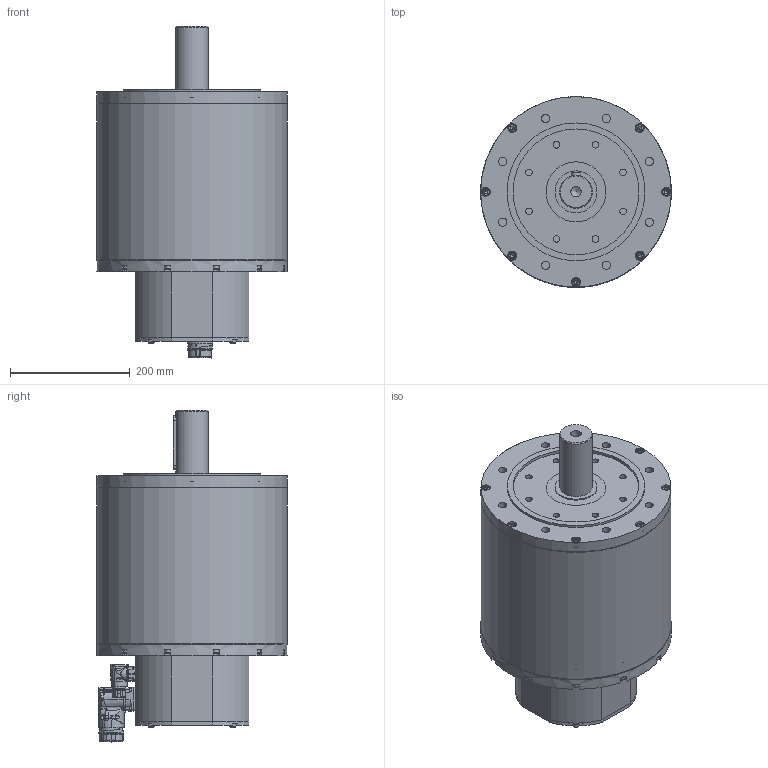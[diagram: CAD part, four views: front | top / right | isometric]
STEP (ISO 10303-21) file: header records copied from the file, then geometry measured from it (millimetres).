
FILE_DESCRIPTION(/* description */ (''),/* implementation_level */ '2;1');
FILE_NAME(/* name */ 'C:\Users\Public\Documents\Autodesk\Inventor LT 2014\Workspace\Motori Sito WEB\TG_8\STEP_DSM5_8x\DSM5_82_x199.stp',/* time_stamp */ '2021-03-31T14:34:01+02:00',/* author */ ('marcor'),/* organization */ (''),/* preprocessor_version */ 'ST-DEVELOPER v15.2',/* originating_system */ 'Autodesk Inventor LT ',/* authorisation */ '');
FILE_SCHEMA (('AUTOMOTIVE_DESIGN { 1 0 10303 214 3 1 1 }'));
Products named in the file (1): DSM5_82_x199
Bounding box: 318 x 318 x 554 mm (x, y, z)
Volume: 27767228 mm3; surface area: 1106719.7 mm2
Topology: 29 solids, 36 shells, 1971 faces, 5129 edges, 3360 vertices
Faces by surface type: plane 878, cylinder 417, cone 415, bspline 137, torus 107, sphere 17
Full cylindrical faces by diameter (mm): 1.2 x12, 2 x2, 2.224 x4, 2.5 x4, 2.88 x4, 3.26 x4, 3.6 x5, 4 x5, 4.5 x1, 4.8 x4, 4.917 x16, 5.4 x1, 5.5 x1, 5.9 x1, 6 x16, 6.5 x20, 6.647 x8, 7 x4, 8 x10, 8.5 x1, 9 x7, 10 x16, 10.106 x2, 11 x8, 13 x7, 13.835 x8, 15 x7, 15.2 x1, 17.294 x1, 17.4 x2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
Entity records: 65174 total; most frequent: CARTESIAN_POINT 19240, ORIENTED_EDGE 8984, DIRECTION 8718, EDGE_CURVE 4490, AXIS2_PLACEMENT_3D 3441, VERTEX_POINT 3184, EDGE_LOOP 2666, ADVANCED_FACE 1971
